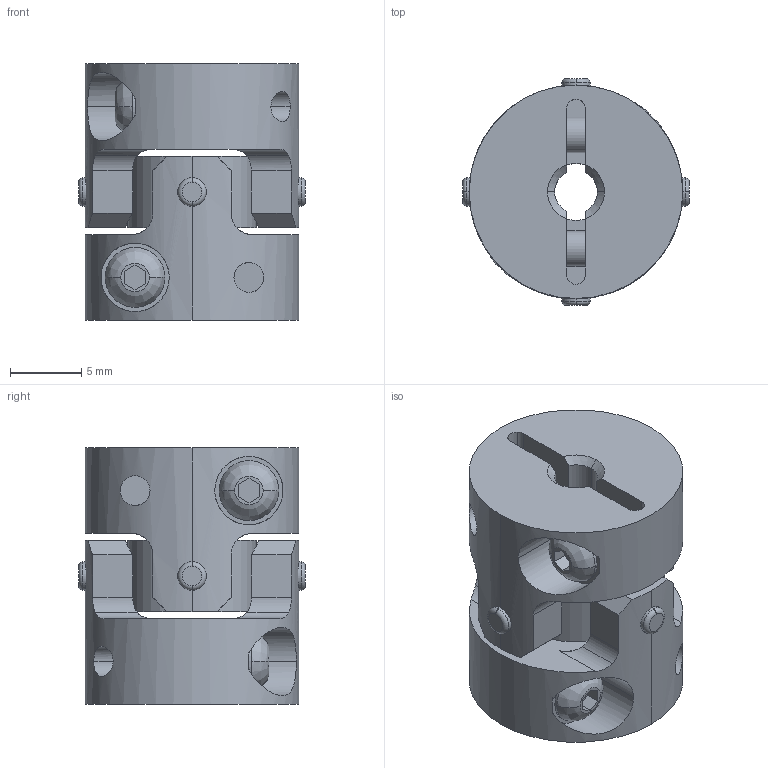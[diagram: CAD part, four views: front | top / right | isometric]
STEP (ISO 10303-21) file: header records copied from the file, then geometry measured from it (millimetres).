
FILE_DESCRIPTION((''),'2;1');
FILE_NAME('UA-15C-3×5.stp','2013-05-16T08:32:15',(''),(''),'AutoCAD STEP 2000i','AutoCAD 2000i',', , ');
FILE_SCHEMA(('CONFIG_CONTROL_DESIGN'));
Length unit declared in the file: millimetre
Products named in the file (6): UA-15C-3×3; 忣兜1; UA-1502-D03-1; BTN-M2.5; UA-1502-D03; UA15-SEN
Assembly tree (6 placements, depth 3):
  UA-15C-3×3
    忣兜1
    UA-1502-D03-1
      BTN-M2.5
    UA-1502-D03
      BTN-M2.5
    UA15-SEN
Bounding box: 15.94 x 15.94 x 18 mm (x, y, z)
Volume: 2300.7 mm3; surface area: 2367 mm2
Topology: 1 solids, 1 shells, 206 faces, 550 edges, 360 vertices
Faces by surface type: cylinder 96, plane 78, cone 16, bspline 8, torus 8
Entity records: 7955 total; most frequent: CARTESIAN_POINT 2659, ORIENTED_EDGE 1100, DIRECTION 1064, EDGE_CURVE 550, AXIS2_PLACEMENT_3D 409, VERTEX_POINT 360, VECTOR 246, LINE 246
